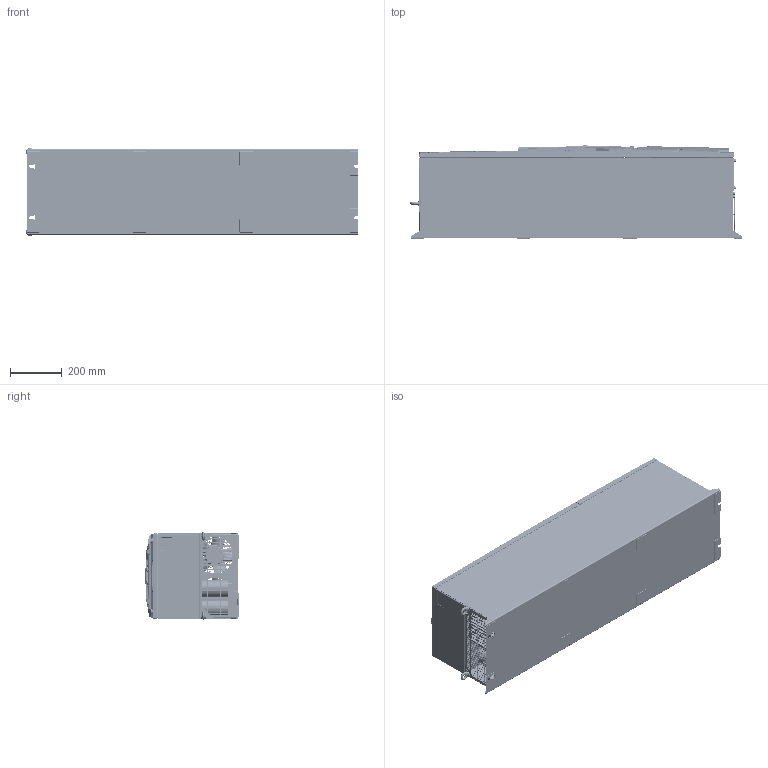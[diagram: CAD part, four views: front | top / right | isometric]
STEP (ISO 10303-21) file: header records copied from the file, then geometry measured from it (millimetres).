
FILE_DESCRIPTION (( 'STEP AP203' ), '1' );
FILE_NAME ('P2.IP55.SIZE7.TFT - Closed.STEP', '2021-12-15T09:24:36', ( '' ), ( '' ), 'SwSTEP 2.0', 'SolidWorks 2021', '' );
FILE_SCHEMA (( 'CONFIG_CONTROL_DESIGN' ));
Products named in the file (1): P2.IP55.SIZE7.TFT - Closed
Bounding box: 1283.1 x 360.16 x 339.75 mm (x, y, z)
Volume: 91667175.9 mm3; surface area: 6852531 mm2
Topology: 1 solids, 34 shells, 7418 faces, 19811 edges, 12665 vertices
Faces by surface type: plane 3509, cylinder 1541, bspline 1146, torus 703, cone 461, sphere 58
Entity records: 330925 total; most frequent: CARTESIAN_POINT 154691, ORIENTED_EDGE 39462, DIRECTION 32518, EDGE_CURVE 19731, VERTEX_POINT 12665, AXIS2_PLACEMENT_3D 11294, VECTOR 9930, LINE 9930
